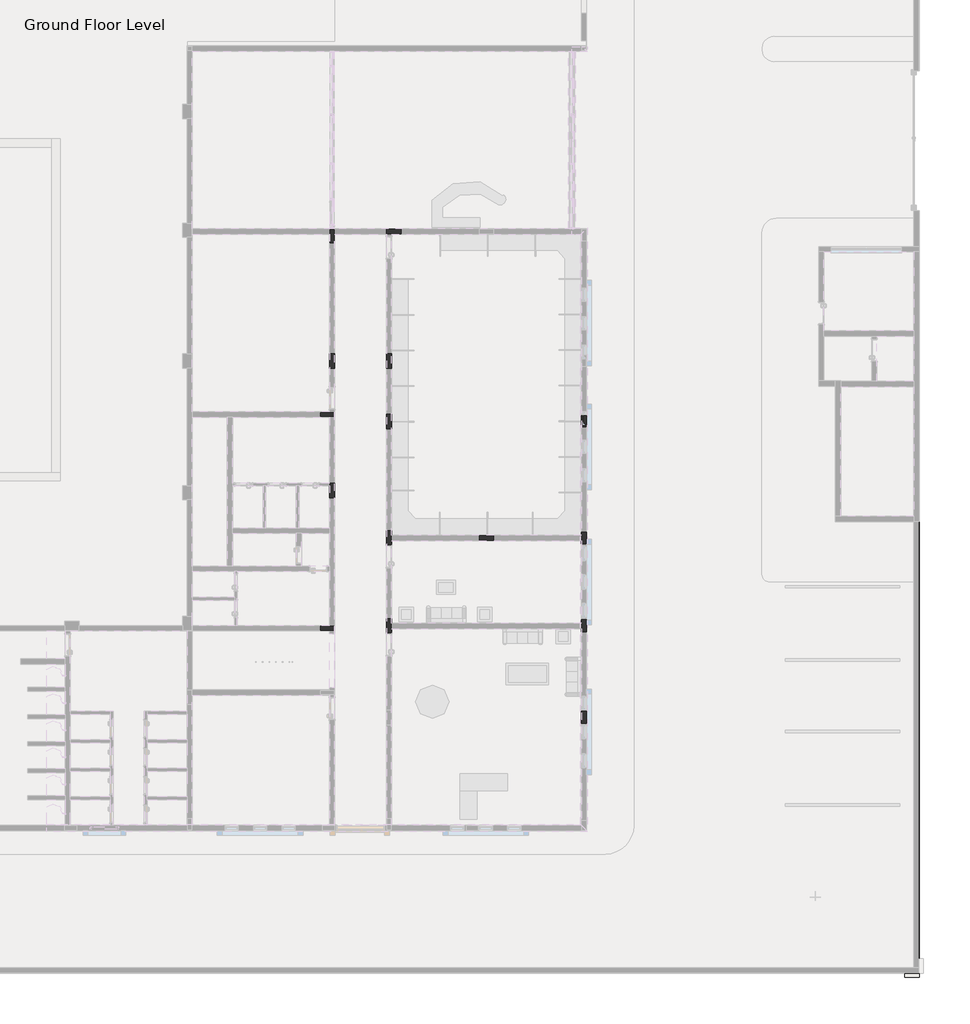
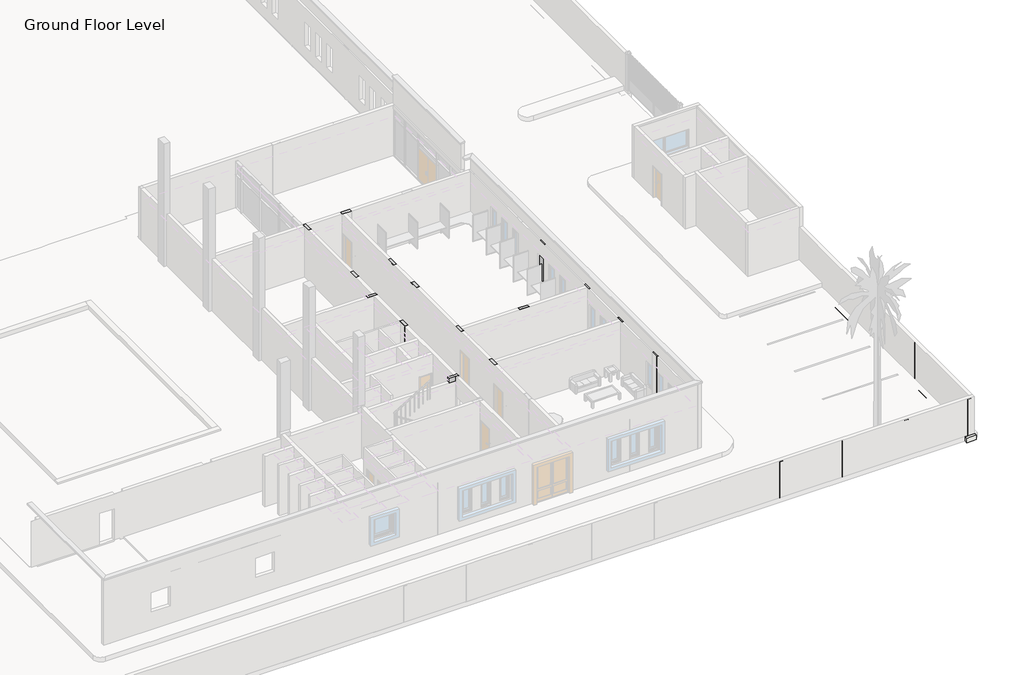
# One storey, part 16 of 23: 33 beams, 24 columns, 15 slabs, 1 footing.
"""IFC4 building model written with IfcOpenShell, lengths in millimetres."""

from ifc_helpers import new_model, si_unit, frame, origin, place, context, project, spatial, polyline, outline, extrude, faceted_brep, transform, mapped, element, save
from components import concrete_rectangular_c_9a02abf1

model = new_model("IFC4")

# Units and contexts
model_context = context("Model", 3, world=origin())
ifc_project = project(units=[si_unit("LENGTHUNIT", "METRE", prefix="MILLI")], contexts=[model_context])

# Site, building, storey
site = spatial("IfcSite", under=ifc_project)
building = spatial("IfcBuilding", under=site)
storey = spatial("IfcBuildingStorey", under=building, Name="Ground Floor Level", Elevation=900.0)

# Beams
placement = place(None, origin())
element("IfcBeam", 1, ObjectType="Concrete - Rectangular Beam : GB1", at=placement, inside=storey, context=model_context, shape_type="SweptSolid", body=[
    extrude(outline(polyline([(2556.7587914, -28654.7846466), (2356.7587914, -28654.7846466), (2356.7587914, -26954.7846466), (2556.7587914, -26954.7846466), (2556.7587914, -28654.7846466)])), frame((0.0, 0.0, 500.0), z_axis=(0.0, 0.0, 1.0), x_axis=(1.0, 0.0, 0.0)), (0.0, 0.0, 1.0), 100.0),
])
element("IfcBeam", 2, ObjectType="Concrete - Rectangular Beam : GB1", at=placement, inside=storey, context=model_context, shape_type="SweptSolid", body=[
    extrude(outline(polyline([(4052.7672395, -30254.7846466), (3852.7672395, -30254.7846466), (3852.7672395, -28854.7846466), (4052.7672395, -28854.7846466), (4052.7672395, -30254.7846466)])), frame((0.0, 0.0, 500.0), z_axis=(0.0, 0.0, 1.0), x_axis=(1.0, 0.0, 0.0)), (0.0, 0.0, 1.0), 100.0),
])
element("IfcBeam", 3, ObjectType="Concrete - Rectangular Beam : GB1", at=placement, inside=storey, context=model_context, shape_type="SweptSolid", body=[
    extrude(outline(polyline([(4052.7672395, -28654.7846466), (3852.7672395, -28654.7846466), (3852.7672395, -26954.7846466), (4052.7672395, -26954.7846466), (4052.7672395, -28654.7846466)])), frame((0.0, 0.0, 500.0), z_axis=(0.0, 0.0, 1.0), x_axis=(1.0, 0.0, 0.0)), (0.0, 0.0, 1.0), 100.0),
])
element("IfcBeam", 4, ObjectType="Concrete - Rectangular Beam : GB1", at=placement, inside=storey, context=model_context, shape_type="SweptSolid", body=[
    extrude(outline(polyline([(-547.2327605, -31704.7846466), (-547.2327605, -31504.7846466), (1152.7672395, -31504.7846466), (1152.7672395, -31704.7846466), (-547.2327605, -31704.7846466)])), frame((0.0, 0.0, 500.0), z_axis=(0.0, 0.0, 1.0), x_axis=(1.0, 0.0, 0.0)), (0.0, 0.0, 1.0), 100.0),
])
element("IfcBeam", 5, ObjectType="Concrete - Rectangular Beam : GB2", at=placement, inside=storey, context=model_context, shape_type="SweptSolid", body=[
    extrude(outline(polyline([(11752.7672395, -29154.7846464), (11952.7672395, -29154.7846464), (11952.7672395, -32654.7846466), (11752.7672395, -32654.7846466), (11752.7672395, -29154.7846464)])), frame((0.0, 0.0, 300.0), z_axis=(0.0, 0.0, 1.0), x_axis=(1.0, 0.0, 0.0)), (0.0, 0.0, 1.0), 300.0),
])
element("IfcBeam", 6, ObjectType="Concrete - Rectangular Beam : GB2", at=placement, inside=storey, context=model_context, shape_type="SweptSolid", body=[
    extrude(outline(polyline([(5252.7672395, -23954.7846466), (5452.7672395, -23954.7846466), (5452.7672395, -26754.7846466), (5252.7672395, -26754.7846466), (5252.7672395, -23954.7846466)])), frame((0.0, 0.0, 300.0), z_axis=(0.0, 0.0, 1.0), x_axis=(1.0, 0.0, 0.0)), (0.0, 0.0, 1.0), 300.0),
])
element("IfcBeam", 7, ObjectType="Concrete - Rectangular Beam : GB2", at=placement, inside=storey, context=model_context, shape_type="SweptSolid", body=[
    extrude(outline(polyline([(5252.7672395, -21904.7846466), (5452.7672395, -21904.7846466), (5452.7672395, -23754.7846466), (5252.7672395, -23754.7846466), (5252.7672395, -21904.7846466)])), frame((0.0, 0.0, 300.0), z_axis=(0.0, 0.0, 1.0), x_axis=(1.0, 0.0, 0.0)), (0.0, 0.0, 1.0), 300.0),
])
element("IfcBeam", 8, ObjectType="Concrete - Rectangular Beam : GB2", at=placement, inside=storey, context=model_context, shape_type="SweptSolid", body=[
    extrude(outline(polyline([(5452.7672395, -21904.7846466), (5452.7672395, -21704.7846466), (7652.7672395, -21704.7846466), (7652.7672395, -21904.7846466), (5452.7672395, -21904.7846466)])), frame((0.0, 0.0, 300.0), z_axis=(0.0, 0.0, 1.0), x_axis=(1.0, 0.0, 0.0)), (0.0, 0.0, 1.0), 300.0),
])
element("IfcBeam", 9, ObjectType="Concrete - Rectangular Beam : GB2", at=placement, inside=storey, context=model_context, shape_type="SweptSolid", body=[
    extrude(outline(polyline([(7852.7672395, -23854.2217867), (7652.7672395, -23854.2217867), (7652.7672395, -21904.7846466), (7852.7672395, -21904.7846466), (7852.7672395, -23854.2217867)])), frame((0.0, 0.0, 300.0), z_axis=(0.0, 0.0, 1.0), x_axis=(1.0, 0.0, 0.0)), (0.0, 0.0, 1.0), 300.0),
])
element("IfcBeam", 10, ObjectType="Concrete - Rectangular Beam : GB2", at=placement, inside=storey, context=model_context, shape_type="SweptSolid", body=[
    extrude(outline(polyline([(7652.7672395, -16054.7846466), (7652.7672395, -16254.7846466), (5452.7672395, -16254.7846466), (5452.7672395, -16054.7846466), (7652.7672395, -16054.7846466)])), frame((0.0, 0.0, 300.0), z_axis=(0.0, 0.0, 1.0), x_axis=(1.0, 0.0, 0.0)), (0.0, 0.0, 1.0), 300.0),
])
element("IfcBeam", 11, ObjectType="Concrete - Rectangular Beam : GB2", at=placement, inside=storey, context=model_context, shape_type="Brep", body=[
    faceted_brep([(1352.7672395, -32754.7846466, 300.0), (1352.7672395, -30454.7846466, 300.0), (1352.7672395, -30454.7846466, 600.0), (1352.7672395, -32754.7846466, 600.0), (1152.7672395, -30454.7846466, 300.0), (1152.7672395, -32754.7846466, 300.0), (1152.7672395, -32754.7846466, 600.0), (1152.7672395, -31704.7846466, 600.0), (1152.7672395, -31504.7846466, 600.0), (1152.7672395, -30454.7846466, 600.0)], [[[0, 1, 2, 3]], [[4, 1, 0, 5]], [[4, 5, 6, 7, 8, 9]], [[1, 4, 9, 2]], [[5, 0, 3, 6]], [[3, 2, 9, 8, 7, 6]]]),
])
element("IfcBeam", 12, ObjectType="Concrete - Rectangular Beam : GB3", at=placement, inside=storey, context=model_context, shape_type="SweptSolid", body=[
    extrude(outline(polyline([(16052.7672395, -32504.7846466), (15852.7672395, -32504.7846466), (15852.7672395, -29304.7846466), (16052.7672395, -29304.7846466), (16052.7672395, -32504.7846466)])), frame((0.0, 0.0, 300.0), z_axis=(0.0, 0.0, 1.0), x_axis=(1.0, 0.0, 0.0)), (0.0, 0.0, 1.0), 300.0),
])
element("IfcBeam", 13, ObjectType="Concrete - Rectangular Beam : GB3", at=placement, inside=storey, context=model_context, shape_type="SweptSolid", body=[
    extrude(outline(polyline([(16052.7672395, -36354.7846466), (15852.7672395, -36354.7846466), (15852.7672395, -33004.7846466), (16052.7672395, -33004.7846466), (16052.7672395, -36354.7846466)])), frame((0.0, 0.0, 300.0), z_axis=(0.0, 0.0, 1.0), x_axis=(1.0, 0.0, 0.0)), (0.0, 0.0, 1.0), 300.0),
])
element("IfcBeam", 14, ObjectType="Concrete - Rectangular Beam : GB3", at=placement, inside=storey, context=model_context, shape_type="SweptSolid", body=[
    extrude(outline(polyline([(15852.7672395, -36854.7846466), (16052.7672395, -36854.7846466), (16052.7672395, -40954.7846466), (15852.7672395, -40954.7846466), (15852.7672395, -36854.7846466)])), frame((0.0, 0.0, 300.0), z_axis=(0.0, 0.0, 1.0), x_axis=(1.0, 0.0, 0.0)), (0.0, 0.0, 1.0), 300.0),
])
element("IfcBeam", 15, ObjectType="Concrete - Rectangular Beam : GB3", at=placement, inside=storey, context=model_context, shape_type="SweptSolid", body=[
    extrude(outline(polyline([(11552.7672395, -32854.7846466), (7852.7672395, -32854.7846466), (7852.7672395, -32654.7846466), (11552.7672395, -32654.7846466), (11552.7672395, -32854.7846466)])), frame((0.0, 0.0, 300.0), z_axis=(0.0, 0.0, 1.0), x_axis=(1.0, 0.0, 0.0)), (0.0, 0.0, 1.0), 300.0),
])
element("IfcBeam", 16, ObjectType="Concrete - Rectangular Beam : GB3", at=placement, inside=storey, context=model_context, shape_type="SweptSolid", body=[
    extrude(outline(polyline([(12152.7672395, -32654.7846466), (15852.7672395, -32654.7846466), (15852.7672395, -32854.7846466), (12152.7672395, -32854.7846466), (12152.7672395, -32654.7846466)])), frame((0.0, 0.0, 300.0), z_axis=(0.0, 0.0, 1.0), x_axis=(1.0, 0.0, 0.0)), (0.0, 0.0, 1.0), 300.0),
])
element("IfcBeam", 17, ObjectType="Concrete - Rectangular Beam : GB3", at=placement, inside=storey, context=model_context, shape_type="SweptSolid", body=[
    extrude(outline(polyline([(7652.7672395, -29354.7846466), (7852.7672395, -29354.7846466), (7852.7672395, -32454.7846466), (7652.7672395, -32454.7846466), (7652.7672395, -29354.7846466)])), frame((0.0, 0.0, 300.0), z_axis=(0.0, 0.0, 1.0), x_axis=(1.0, 0.0, 0.0)), (0.0, 0.0, 1.0), 300.0),
])
element("IfcBeam", 18, ObjectType="Concrete - Rectangular Beam : GB3", at=placement, inside=storey, context=model_context, shape_type="SweptSolid", body=[
    extrude(outline(polyline([(11552.7672395, -29154.7846466), (7852.7672395, -29154.7846466), (7852.7672395, -28954.7846466), (11552.7672395, -28954.7846466), (11552.7672395, -29154.7846466)])), frame((0.0, 0.0, 300.0), z_axis=(0.0, 0.0, 1.0), x_axis=(1.0, 0.0, 0.0)), (0.0, 0.0, 1.0), 300.0),
])
element("IfcBeam", 19, ObjectType="Concrete - Rectangular Beam : GB3", at=placement, inside=storey, context=model_context, shape_type="SweptSolid", body=[
    extrude(outline(polyline([(12152.7672395, -29154.7846466), (12152.7672395, -28954.7846466), (15852.7672395, -28954.7846466), (15852.7672395, -29154.7846466), (12152.7672395, -29154.7846466)])), frame((0.0, 0.0, 300.0), z_axis=(0.0, 0.0, 1.0), x_axis=(1.0, 0.0, 0.0)), (0.0, 0.0, 1.0), 300.0),
])
element("IfcBeam", 20, ObjectType="Concrete - Rectangular Beam : GB3", at=placement, inside=storey, context=model_context, shape_type="SweptSolid", body=[
    extrude(outline(polyline([(11722.4949783, -28954.7846466), (15852.7672395, -24007.8583672), (15852.7672395, -24319.9187984), (11983.0395003, -28954.7846466), (11722.4949783, -28954.7846466)])), frame((0.0, 0.0, 300.0), z_axis=(0.0, 0.0, 1.0), x_axis=(1.0, 0.0, 0.0)), (0.0, 0.0, 1.0), 300.0),
])
element("IfcBeam", 21, ObjectType="Concrete - Rectangular Beam : GB3", at=placement, inside=storey, context=model_context, shape_type="SweptSolid", body=[
    extrude(outline(polyline([(11110.5667198, -41154.7846466), (15852.7672395, -36464.1297847), (15852.7672395, -36745.4395085), (11394.9677592, -41154.7846466), (11110.5667198, -41154.7846466)])), frame((0.0, 0.0, 300.0), z_axis=(0.0, 0.0, 1.0), x_axis=(1.0, 0.0, 0.0)), (0.0, 0.0, 1.0), 300.0),
])
element("IfcBeam", 22, ObjectType="Concrete - Rectangular Beam : GB3", at=placement, inside=storey, context=model_context, shape_type="SweptSolid", body=[
    extrude(outline(polyline([(5252.7672395, -21704.7846466), (5252.7672395, -21904.7846466), (-547.2327605, -21904.7846466), (-547.2327605, -21704.7846466), (5252.7672395, -21704.7846466)])), frame((0.0, 0.0, 300.0), z_axis=(0.0, 0.0, 1.0), x_axis=(1.0, 0.0, 0.0)), (0.0, 0.0, 1.0), 300.0),
])
element("IfcBeam", 23, ObjectType="Concrete - Rectangular Beam : GB3", at=placement, inside=storey, context=model_context, shape_type="Brep", body=[
    faceted_brep([(1156.7587914, -26954.7846466, 300.0), (5252.7672395, -26954.7846466, 300.0), (5252.7672395, -26954.7846466, 600.0), (4052.7672395, -26954.7846466, 600.0), (3852.7672395, -26954.7846466, 600.0), (2556.7587914, -26954.7846466, 600.0), (2356.7587914, -26954.7846466, 600.0), (1156.7587914, -26954.7846466, 600.0), (1156.7587914, -26754.7846466, 300.0), (5252.7672395, -26754.7846466, 300.0), (1156.7587914, -26754.7846466, 600.0), (5252.7672395, -26754.7846466, 600.0)], [[[0, 1, 2, 3, 4, 5, 6, 7]], [[0, 8, 9, 1]], [[9, 8, 10, 11]], [[8, 0, 7, 10]], [[1, 9, 11, 2]], [[7, 6, 5, 4, 3, 2, 11, 10]]]),
])
element("IfcBeam", 24, ObjectType="Concrete - Rectangular Beam : GB4", at=placement, inside=storey, context=model_context, shape_type="SweptSolid", body=[
    extrude(outline(polyline([(16052.7672395, -28804.7846466), (15852.7672395, -28804.7846466), (15852.7672395, -24404.2217867), (16052.7672395, -24404.2217867), (16052.7672395, -28804.7846466)])), frame((0.0, 0.0, 300.0), z_axis=(0.0, 0.0, 1.0), x_axis=(1.0, 0.0, 0.0)), (0.0, 0.0, 1.0), 300.0),
])
element("IfcBeam", 25, ObjectType="Concrete - Rectangular Beam : GB4", at=placement, inside=storey, context=model_context, shape_type="SweptSolid", body=[
    extrude(outline(polyline([(7852.7672395, -16254.7846466), (7852.7672395, -21304.7846466), (7652.7672395, -21304.7846466), (7652.7672395, -16254.7846466), (7852.7672395, -16254.7846466)])), frame((0.0, 0.0, 300.0), z_axis=(0.0, 0.0, 1.0), x_axis=(1.0, 0.0, 0.0)), (0.0, 0.0, 1.0), 300.0),
])
element("IfcBeam", 26, ObjectType="Concrete - Rectangular Beam : GB4", at=placement, inside=storey, context=model_context, shape_type="SweptSolid", body=[
    extrude(outline(polyline([(5452.7672395, -21304.7846466), (5252.7672395, -21304.7846466), (5252.7672395, -16654.7846466), (5452.7672395, -16654.7846466), (5452.7672395, -21304.7846466)])), frame((0.0, 0.0, 300.0), z_axis=(0.0, 0.0, 1.0), x_axis=(1.0, 0.0, 0.0)), (0.0, 0.0, 1.0), 300.0),
])
element("IfcBeam", 27, ObjectType="Concrete - Rectangular Beam : GB4", at=placement, inside=storey, context=model_context, shape_type="SweptSolid", body=[
    extrude(outline(polyline([(7652.7672395, -24454.2217867), (7852.7672395, -24454.2217867), (7852.7672395, -28754.7846466), (7652.7672395, -28754.7846466), (7652.7672395, -24454.2217867)])), frame((0.0, 0.0, 300.0), z_axis=(0.0, 0.0, 1.0), x_axis=(1.0, 0.0, 0.0)), (0.0, 0.0, 1.0), 300.0),
])
element("IfcBeam", 28, ObjectType="Concrete - Rectangular Beam : GB4", at=placement, inside=storey, context=model_context, shape_type="SweptSolid", body=[
    extrude(outline(polyline([(5252.7672395, -16054.7846466), (5252.7672395, -16254.7846466), (-547.2327605, -16254.7846466), (-547.2327605, -16054.7846466), (5252.7672395, -16054.7846466)])), frame((0.0, 0.0, 300.0), z_axis=(0.0, 0.0, 1.0), x_axis=(1.0, 0.0, 0.0)), (0.0, 0.0, 1.0), 300.0),
])
element("IfcBeam", 29, ObjectType="Concrete - Rectangular Beam : GB4", at=placement, inside=storey, context=model_context, shape_type="Brep", body=[
    faceted_brep([(1156.7587914, -28854.7846466, 300.0), (5252.7672395, -28854.7846466, 300.0), (5252.7672395, -28854.7846466, 600.0), (4052.7672395, -28854.7846466, 600.0), (3852.7672395, -28854.7846466, 600.0), (1156.7587914, -28854.7846466, 600.0), (5252.7672395, -28654.7846466, 300.0), (1156.7587914, -28654.7846466, 300.0), (1156.7587914, -28654.7846466, 600.0), (2356.7587914, -28654.7846466, 600.0), (2556.7587914, -28654.7846466, 600.0), (3852.7672395, -28654.7846466, 600.0), (4052.7672395, -28654.7846466, 600.0), (5252.7672395, -28654.7846466, 600.0)], [[[0, 1, 2, 3, 4, 5]], [[6, 1, 0, 7]], [[6, 7, 8, 9, 10, 11, 12, 13]], [[1, 6, 13, 2]], [[7, 0, 5, 8]], [[5, 4, 3, 2, 13, 12, 11, 10, 9, 8]]]),
])
element("IfcBeam", 30, ObjectType="Concrete - Rectangular Beam : GB5", at=placement, inside=storey, context=model_context, shape_type="Brep", body=[
    faceted_brep([(5452.7672395, -32754.7846466, 300.0), (5452.7672395, -27354.7846466, 300.0), (5452.7672395, -27354.7846466, 600.0), (5452.7672395, -32754.7846466, 600.0), (5252.7672395, -27354.7846466, 300.0), (5252.7672395, -32754.7846466, 300.0), (5252.7672395, -30454.7846466, 300.0), (5252.7672395, -30254.7846466, 300.0), (5252.7672395, -28854.7846466, 300.0), (5252.7672395, -28654.7846466, 300.0), (5252.7672395, -32754.7846466, 600.0), (5252.7672395, -30454.7846466, 600.0), (5252.7672395, -30254.7846466, 600.0), (5252.7672395, -28854.7846466, 600.0), (5252.7672395, -28654.7846466, 600.0), (5252.7672395, -27354.7846466, 600.0)], [[[0, 1, 2, 3]], [[4, 1, 0, 5, 6, 7, 8, 9]], [[4, 9, 8, 7, 6, 5, 10, 11, 12, 13, 14, 15]], [[1, 4, 15, 2]], [[5, 0, 3, 10]], [[3, 2, 15, 14, 13, 12, 11, 10]]]),
])
element("IfcBeam", 31, ObjectType="Concrete - Rectangular Beam : GB5", at=placement, inside=storey, context=model_context, shape_type="Brep", body=[
    faceted_brep([(-547.2327605, -23954.7846466, 300.0), (956.7587914, -23954.7846466, 300.0), (1156.7587914, -23954.7846466, 300.0), (4852.7672395, -23954.7846466, 300.0), (4852.7672395, -23954.7846466, 600.0), (1156.7587914, -23954.7846466, 600.0), (956.7587914, -23954.7846466, 600.0), (-547.2327605, -23954.7846466, 600.0), (-547.2327605, -23754.7846466, 300.0), (4852.7672395, -23754.7846466, 300.0), (-547.2327605, -23754.7846466, 600.0), (4852.7672395, -23754.7846466, 600.0)], [[[0, 1, 2, 3, 4, 5, 6, 7]], [[0, 8, 9, 3, 2, 1]], [[9, 8, 10, 11]], [[8, 0, 7, 10]], [[3, 9, 11, 4]], [[7, 6, 5, 4, 11, 10]]]),
])
element("IfcBeam", 32, ObjectType="Concrete - Rectangular Beam : GB5", at=placement, inside=storey, context=model_context, shape_type="Brep", body=[
    faceted_brep([(1156.7587914, -30254.7846466, 300.0), (1156.7587914, -28854.7846466, 300.0), (1156.7587914, -28654.7846466, 300.0), (1156.7587914, -26954.7846466, 300.0), (1156.7587914, -26754.7846466, 300.0), (1156.7587914, -23954.7846466, 300.0), (1156.7587914, -23954.7846466, 600.0), (1156.7587914, -26754.7846466, 600.0), (1156.7587914, -26954.7846466, 600.0), (1156.7587914, -28654.7846466, 600.0), (1156.7587914, -28854.7846466, 600.0), (1156.7587914, -30254.7846466, 600.0), (956.7587914, -23954.7846466, 300.0), (956.7587914, -30254.7846466, 300.0), (956.7587914, -30254.7846466, 600.0), (956.7587914, -23954.7846466, 600.0)], [[[0, 1, 2, 3, 4, 5, 6, 7, 8, 9, 10, 11]], [[12, 5, 4, 3, 2, 1, 0, 13]], [[12, 13, 14, 15]], [[5, 12, 15, 6]], [[13, 0, 11, 14]], [[11, 10, 9, 8, 7, 6, 15, 14]]]),
])
element("IfcBeam", 33, ObjectType="Concrete - Rectangular Beam : GB5", at=placement, inside=storey, context=model_context, shape_type="Brep", body=[
    faceted_brep([(-547.2327605, -30454.7846466, 300.0), (1152.7672395, -30454.7846466, 300.0), (1352.7672395, -30454.7846466, 300.0), (5252.7672395, -30454.7846466, 300.0), (5252.7672395, -30454.7846466, 600.0), (1352.7672395, -30454.7846466, 600.0), (1152.7672395, -30454.7846466, 600.0), (-547.2327605, -30454.7846466, 600.0), (5252.7672395, -30254.7846466, 300.0), (-547.2327605, -30254.7846466, 300.0), (956.7587914, -30254.7846466, 300.0), (1156.7587914, -30254.7846466, 300.0), (-547.2327605, -30254.7846466, 600.0), (956.7587914, -30254.7846466, 600.0), (1156.7587914, -30254.7846466, 600.0), (3852.7672395, -30254.7846466, 600.0), (4052.7672395, -30254.7846466, 600.0), (5252.7672395, -30254.7846466, 600.0)], [[[0, 1, 2, 3, 4, 5, 6, 7]], [[8, 3, 2, 1, 0, 9, 10, 11]], [[8, 11, 10, 9, 12, 13, 14, 15, 16, 17]], [[3, 8, 17, 4]], [[9, 0, 7, 12]], [[7, 6, 5, 4, 17, 16, 15, 14, 13, 12]]]),
])

# Columns
concrete_rectangular_c_shape = concrete_rectangular_c_9a02abf1(model_context)
element("IfcColumn", 34, ObjectType="Concrete Rectangular : C", at=placement, inside=storey, context=model_context, shape_type="MappedRepresentation", body=[
    mapped(concrete_rectangular_c_shape, transform((29943.9253387, -33044.7846466, 0.0), x_axis=(-1.0, 0.0, 0.0), y_axis=(0.0, -1.0, 0.0), z_axis=(0.0, 0.0, 1.0))),
])
element("IfcColumn", 35, ObjectType="Concrete Rectangular : C", at=placement, inside=storey, context=model_context, shape_type="MappedRepresentation", body=[
    mapped(concrete_rectangular_c_shape, transform((29943.9253387, -37044.7846466, 0.0), x_axis=(-1.0, 0.0, 0.0), y_axis=(0.0, -1.0, 0.0), z_axis=(0.0, 0.0, 1.0))),
])
element("IfcColumn", 36, ObjectType="Concrete Rectangular : C", at=placement, inside=storey, context=model_context, shape_type="MappedRepresentation", body=[
    mapped(concrete_rectangular_c_shape, transform((29943.9253387, -41044.7846466, 0.0), x_axis=(-1.0, 0.0, 0.0), y_axis=(0.0, -1.0, 0.0), z_axis=(0.0, 0.0, 1.0))),
])
element("IfcColumn", 37, ObjectType="Concrete Rectangular : C", at=placement, inside=storey, context=model_context, shape_type="MappedRepresentation", body=[
    mapped(concrete_rectangular_c_shape, transform((29943.9253387, -45044.7846466, 0.0), x_axis=(-1.0, 0.0, 0.0), y_axis=(0.0, -1.0, 0.0), z_axis=(0.0, 0.0, 1.0))),
])
element("IfcColumn", 38, ObjectType="Concrete Rectangular : C", at=placement, inside=storey, context=model_context, shape_type="MappedRepresentation", body=[
    mapped(concrete_rectangular_c_shape, transform((29716.0532888, -47254.7846466, 0.0), x_axis=(-1.0, 0.0, 0.0), y_axis=(0.0, -1.0, 0.0), z_axis=(0.0, 0.0, 1.0))),
])
element("IfcColumn", 39, ObjectType="Concrete Rectangular : C", at=placement, inside=storey, context=model_context, shape_type="MappedRepresentation", body=[
    mapped(concrete_rectangular_c_shape, transform((25716.0532888, -47254.7846466, 0.0), x_axis=(-1.0, 0.0, 0.0), y_axis=(0.0, -1.0, 0.0), z_axis=(0.0, 0.0, 1.0))),
])
element("IfcColumn", 40, ObjectType="Concrete Rectangular : C", at=placement, inside=storey, context=model_context, shape_type="MappedRepresentation", body=[
    mapped(concrete_rectangular_c_shape, transform((21716.0532888, -47254.7846466, 0.0), x_axis=(-1.0, 0.0, 0.0), y_axis=(0.0, -1.0, 0.0), z_axis=(0.0, 0.0, 1.0))),
])
element("IfcColumn", 41, ObjectType="Concrete Rectangular : C", at=placement, inside=storey, context=model_context, shape_type="MappedRepresentation", body=[
    mapped(concrete_rectangular_c_shape, transform((17716.0532888, -47254.7846466, 0.0), x_axis=(-1.0, 0.0, 0.0), y_axis=(0.0, -1.0, 0.0), z_axis=(0.0, 0.0, 1.0))),
])
element("IfcColumn", 42, ObjectType="Concrete Rectangular : C2", at=placement, inside=storey, context=model_context, shape_type="Brep", body=[
    faceted_brep([(16052.7672395, -36354.7846466, -300.0), (16052.7672395, -36854.7846466, -300.0), (15852.7672395, -36854.7846466, -300.0), (15852.7672395, -36354.7846466, -300.0), (16052.7672395, -36354.7846466, 4400.0), (16052.7672395, -36854.7846466, 4400.0), (16052.7672395, -36854.7846466, 900.0), (16052.7672395, -36354.7846466, 900.0), (15852.7672395, -36854.7846466, 4400.0), (15852.7672395, -36854.7846466, 1000.0), (15852.7672395, -36354.7846466, 4400.0), (15852.7672395, -36354.7846466, 1000.0)], [[[0, 1, 2, 3]], [[4, 5, 6, 1, 0, 7]], [[5, 8, 9, 2, 1, 6]], [[8, 10, 11, 3, 2, 9]], [[10, 4, 7, 0, 3, 11]], [[4, 10, 8, 5]]]),
])
element("IfcColumn", 43, ObjectType="Concrete Rectangular : C2", at=placement, inside=storey, context=model_context, shape_type="Brep", body=[
    faceted_brep([(16052.7672395, -32504.7846466, -300.0), (16052.7672395, -33004.7846466, -300.0), (15852.7672395, -33004.7846466, -300.0), (15852.7672395, -32504.7846466, -300.0), (16052.7672395, -32504.7846466, 4400.0), (16052.7672395, -33004.7846466, 4400.0), (16052.7672395, -33004.7846466, 900.0), (16052.7672395, -32504.7846466, 900.0), (15852.7672395, -33004.7846466, 4400.0), (15852.7672395, -33004.7846466, 1000.0), (15852.7672395, -32504.7846466, 4400.0), (15852.7672395, -32504.7846466, 1000.0)], [[[0, 1, 2, 3]], [[4, 5, 6, 1, 0, 7]], [[5, 8, 9, 2, 1, 6]], [[8, 10, 11, 3, 2, 9]], [[10, 4, 7, 0, 3, 11]], [[4, 10, 8, 5]]]),
])
element("IfcColumn", 44, ObjectType="Concrete Rectangular : C2", at=placement, inside=storey, context=model_context, shape_type="Brep", body=[
    faceted_brep([(16052.7672395, -28804.7846466, -300.0), (16052.7672395, -29304.7846466, -300.0), (15852.7672395, -29304.7846466, -300.0), (15852.7672395, -28804.7846466, -300.0), (16052.7672395, -28804.7846466, 4400.0), (16052.7672395, -29304.7846466, 4400.0), (16052.7672395, -29304.7846466, 900.0), (16052.7672395, -28804.7846466, 900.0), (15852.7672395, -29304.7846466, 4400.0), (15852.7672395, -29304.7846466, 1000.0), (15852.7672395, -28804.7846466, 4400.0), (15852.7672395, -28804.7846466, 1000.0)], [[[0, 1, 2, 3]], [[4, 5, 6, 1, 0, 7]], [[5, 8, 9, 2, 1, 6]], [[8, 10, 11, 3, 2, 9]], [[10, 4, 7, 0, 3, 11]], [[4, 10, 8, 5]]]),
])
element("IfcColumn", 45, ObjectType="Concrete Rectangular : C2", at=placement, inside=storey, context=model_context, shape_type="Brep", body=[
    faceted_brep([(16052.7672395, -23904.2217867, -300.0), (16052.7672395, -24404.2217867, -300.0), (15852.7672395, -24404.2217867, -300.0), (15852.7672395, -23904.2217867, -300.0), (16052.7672395, -23904.2217867, 4400.0), (16052.7672395, -24404.2217867, 4400.0), (16052.7672395, -24404.2217867, 900.0), (16052.7672395, -23904.2217867, 900.0), (16052.7672395, -23904.2217867, 1800.0), (16052.7672395, -23904.2217867, 3400.0), (15852.7672395, -24404.2217867, 4400.0), (15852.7672395, -24404.2217867, 1000.0), (15852.7672395, -23904.2217867, 4400.0), (15852.7672395, -23904.2217867, 3400.0), (15852.7672395, -23904.2217867, 1800.0), (15852.7672395, -23904.2217867, 1000.0)], [[[0, 1, 2, 3]], [[4, 5, 6, 1, 0, 7, 8, 9]], [[5, 10, 11, 2, 1, 6]], [[10, 12, 13, 14, 15, 3, 2, 11]], [[12, 4, 9, 8, 7, 0, 3, 15, 14, 13]], [[4, 12, 10, 5]]]),
])
element("IfcColumn", 46, ObjectType="Concrete Rectangular : C3", at=placement, inside=storey, context=model_context, shape_type="Brep", body=[
    faceted_brep([(5452.7672395, -21304.7846466, -300.0), (5452.7672395, -21904.7846466, -300.0), (5252.7672395, -21904.7846466, -300.0), (5252.7672395, -21304.7846466, -300.0), (5452.7672395, -21904.7846466, 600.0), (5452.7672395, -21704.7846466, 600.0), (5452.7672395, -21304.7846466, 600.0), (5252.7672395, -21304.7846466, 600.0), (5252.7672395, -21704.7846466, 600.0), (5252.7672395, -21904.7846466, 600.0), (5452.7672395, -21304.7846466, 300.0), (5452.7672395, -21904.7846466, 300.0), (5252.7672395, -21904.7846466, 300.0), (5252.7672395, -21304.7846466, 300.0)], [[[0, 1, 2, 3]], [[4, 5, 6, 7, 8, 9]], [[1, 0, 10, 6, 5, 4, 11]], [[2, 1, 11, 4, 9, 12]], [[3, 2, 12, 9, 8, 7, 13]], [[0, 3, 13, 7, 6, 10]]]),
    faceted_brep([(5452.7672395, -21304.7846466, 4400.0), (5452.7672395, -21904.7846466, 4400.0), (5452.7672395, -21904.7846466, 1000.0), (5452.7672395, -21904.7846466, 900.0), (5452.7672395, -21304.7846466, 900.0), (5452.7672395, -21304.7846466, 1000.0), (5252.7672395, -21904.7846466, 4400.0), (5252.7672395, -21904.7846466, 1000.0), (5252.7672395, -21904.7846466, 900.0), (5252.7672395, -21304.7846466, 4400.0), (5252.7672395, -21304.7846466, 1000.0), (5252.7672395, -21304.7846466, 900.0)], [[[0, 1, 2, 3, 4, 5]], [[1, 6, 7, 8, 3, 2]], [[6, 9, 10, 11, 8, 7]], [[9, 0, 5, 4, 11, 10]], [[1, 0, 9, 6]], [[4, 3, 8, 11]]]),
])
element("IfcColumn", 47, ObjectType="Concrete Rectangular : C3", at=placement, inside=storey, context=model_context, shape_type="Brep", body=[
    faceted_brep([(7852.7672395, -21304.7846466, -300.0), (7852.7672395, -21904.7846466, -300.0), (7652.7672395, -21904.7846466, -300.0), (7652.7672395, -21304.7846466, -300.0), (7852.7672395, -21904.7846466, 600.0), (7852.7672395, -21304.7846466, 600.0), (7652.7672395, -21304.7846466, 600.0), (7652.7672395, -21704.7846466, 600.0), (7652.7672395, -21904.7846466, 600.0), (7852.7672395, -21304.7846466, 300.0), (7852.7672395, -21904.7846466, 300.0), (7652.7672395, -21904.7846466, 300.0), (7652.7672395, -21304.7846466, 300.0)], [[[0, 1, 2, 3]], [[4, 5, 6, 7, 8]], [[1, 0, 9, 5, 4, 10]], [[2, 1, 10, 4, 8, 11]], [[3, 2, 11, 8, 7, 6, 12]], [[0, 3, 12, 6, 5, 9]]]),
    faceted_brep([(7852.7672395, -21304.7846466, 4400.0), (7852.7672395, -21904.7846466, 4400.0), (7852.7672395, -21904.7846466, 1000.0), (7852.7672395, -21904.7846466, 900.0), (7852.7672395, -21304.7846466, 900.0), (7852.7672395, -21304.7846466, 1000.0), (7652.7672395, -21904.7846466, 4400.0), (7652.7672395, -21904.7846466, 1000.0), (7652.7672395, -21904.7846466, 900.0), (7652.7672395, -21304.7846466, 4400.0), (7652.7672395, -21304.7846466, 1000.0), (7652.7672395, -21304.7846466, 900.0)], [[[0, 1, 2, 3, 4, 5]], [[1, 6, 7, 8, 3, 2]], [[6, 9, 10, 11, 8, 7]], [[9, 0, 5, 4, 11, 10]], [[1, 0, 9, 6]], [[4, 3, 8, 11]]]),
])
element("IfcColumn", 48, ObjectType="Concrete Rectangular : C3", at=placement, inside=storey, context=model_context, shape_type="Brep", body=[
    faceted_brep([(4852.7672395, -23754.7846466, -300.0), (5452.7672395, -23754.7846466, -300.0), (5452.7672395, -23954.7846466, -300.0), (4852.7672395, -23954.7846466, -300.0), (4852.7672395, -23754.7846466, 4400.0), (5242.7672394, -23754.7846466, 4400.0), (5452.7672395, -23754.7846466, 4400.0), (5452.7672395, -23754.7846466, 1000.0), (5452.7672395, -23754.7846466, 900.0), (4852.7672395, -23754.7846466, 900.0), (4852.7672395, -23754.7846466, 1000.0), (5452.7672395, -23954.7846466, 4400.0), (5452.7672395, -23954.7846466, 1000.0), (5452.7672395, -23954.7846466, 900.0), (5242.7672394, -23954.7846466, 4400.0), (4852.7672395, -23954.7846466, 4400.0), (4852.7672395, -23954.7846466, 1000.0), (4852.7672395, -23954.7846466, 900.0)], [[[0, 1, 2, 3]], [[4, 5, 6, 7, 8, 1, 0, 9, 10]], [[6, 11, 12, 13, 2, 1, 8, 7]], [[11, 14, 15, 16, 17, 3, 2, 13, 12]], [[15, 4, 10, 9, 0, 3, 17, 16]], [[4, 15, 14, 11, 6, 5]]]),
])
element("IfcColumn", 49, ObjectType="Concrete Rectangular : C3", at=placement, inside=storey, context=model_context, shape_type="Brep", body=[
    faceted_brep([(7652.7672395, -24454.2217867, -300.0), (7652.7672395, -23854.2217867, -300.0), (7852.7672395, -23854.2217867, -300.0), (7852.7672395, -24454.2217867, -300.0), (7652.7672395, -23854.2217867, 600.0), (7652.7672395, -24454.2217867, 600.0), (7852.7672395, -24454.2217867, 600.0), (7852.7672395, -23854.2217867, 600.0), (7652.7672395, -24454.2217867, 300.0), (7652.7672395, -23854.2217867, 300.0), (7852.7672395, -23854.2217867, 300.0), (7852.7672395, -24454.2217867, 300.0)], [[[0, 1, 2, 3]], [[4, 5, 6, 7]], [[1, 0, 8, 5, 4, 9]], [[2, 1, 9, 4, 7, 10]], [[3, 2, 10, 7, 6, 11]], [[0, 3, 11, 6, 5, 8]]]),
    faceted_brep([(7652.7672395, -24454.2217867, 4400.0), (7652.7672395, -23854.2217867, 4400.0), (7652.7672395, -23854.2217867, 1000.0), (7652.7672395, -23854.2217867, 900.0), (7652.7672395, -24454.2217867, 900.0), (7652.7672395, -24454.2217867, 1000.0), (7852.7672395, -23854.2217867, 4400.0), (7852.7672395, -23854.2217867, 1000.0), (7852.7672395, -23854.2217867, 900.0), (7852.7672395, -24454.2217867, 4400.0), (7852.7672395, -24454.2217867, 1000.0), (7852.7672395, -24454.2217867, 900.0)], [[[0, 1, 2, 3, 4, 5]], [[1, 6, 7, 8, 3, 2]], [[6, 9, 10, 11, 8, 7]], [[9, 0, 5, 4, 11, 10]], [[1, 0, 9, 6]], [[4, 3, 8, 11]]]),
])
element("IfcColumn", 50, ObjectType="Concrete Rectangular : C3", at=placement, inside=storey, context=model_context, shape_type="Brep", body=[
    faceted_brep([(5452.7672395, -26754.7846466, -300.0), (5452.7672395, -27354.7846466, -300.0), (5252.7672395, -27354.7846466, -300.0), (5252.7672395, -26754.7846466, -300.0), (5452.7672395, -26754.7846466, 4400.0), (5452.7672395, -27354.7846466, 4400.0), (5452.7672395, -27354.7846466, 1000.0), (5452.7672395, -27354.7846466, 900.0), (5452.7672395, -26754.7846466, 900.0), (5452.7672395, -26754.7846466, 1000.0), (5252.7672395, -27354.7846466, 4400.0), (5252.7672395, -27354.7846466, 1000.0), (5252.7672395, -27354.7846466, 900.0), (5252.7672395, -26754.7846466, 4400.0), (5252.7672395, -26754.7846466, 1000.0), (5252.7672395, -26754.7846466, 900.0)], [[[0, 1, 2, 3]], [[4, 5, 6, 7, 1, 0, 8, 9]], [[5, 10, 11, 12, 2, 1, 7, 6]], [[10, 13, 14, 15, 3, 2, 12, 11]], [[13, 4, 9, 8, 0, 3, 15, 14]], [[4, 13, 10, 5]]]),
])
element("IfcColumn", 51, ObjectType="Concrete Rectangular : C3", at=placement, inside=storey, context=model_context, shape_type="Brep", body=[
    faceted_brep([(7852.7672395, -28754.7846466, -300.0), (7852.7672395, -29354.7846466, -300.0), (7652.7672395, -29354.7846466, -300.0), (7652.7672395, -28754.7846466, -300.0), (7852.7672395, -28754.7846466, 4400.0), (7852.7672395, -29354.7846466, 4400.0), (7852.7672395, -29354.7846466, 1000.0), (7852.7672395, -29354.7846466, 900.0), (7852.7672395, -28754.7846466, 900.0), (7852.7672395, -28754.7846466, 1000.0), (7652.7672395, -29354.7846466, 4400.0), (7652.7672395, -29354.7846466, 1000.0), (7652.7672395, -29354.7846466, 900.0), (7652.7672395, -28754.7846466, 4400.0), (7652.7672395, -28754.7846466, 1000.0), (7652.7672395, -28754.7846466, 900.0)], [[[0, 1, 2, 3]], [[4, 5, 6, 7, 1, 0, 8, 9]], [[5, 10, 11, 12, 2, 1, 7, 6]], [[10, 13, 14, 15, 3, 2, 12, 11]], [[13, 4, 9, 8, 0, 3, 15, 14]], [[4, 13, 10, 5]]]),
])
element("IfcColumn", 52, ObjectType="Concrete Rectangular : C3", at=placement, inside=storey, context=model_context, shape_type="Brep", body=[
    faceted_brep([(11552.7672395, -28954.7846464, -300.0), (12152.7672395, -28954.7846464, -300.0), (12152.7672395, -29154.7846464, -300.0), (11552.7672395, -29154.7846464, -300.0), (11552.7672395, -28954.7846464, 4400.0), (12152.7672395, -28954.7846464, 4400.0), (12152.7672395, -28954.7846464, 1000.0), (12152.7672395, -28954.7846464, 900.0), (11552.7672395, -28954.7846464, 900.0), (11552.7672395, -28954.7846464, 1000.0), (12152.7672395, -29154.7846464, 4400.0), (12152.7672395, -29154.7846464, 1000.0), (12152.7672395, -29154.7846464, 900.0), (11552.7672395, -29154.7846464, 4400.0), (11552.7672395, -29154.7846464, 1000.0), (11552.7672395, -29154.7846464, 900.0)], [[[0, 1, 2, 3]], [[4, 5, 6, 7, 1, 0, 8, 9]], [[5, 10, 11, 12, 2, 1, 7, 6]], [[10, 13, 14, 15, 3, 2, 12, 11]], [[13, 4, 9, 8, 0, 3, 15, 14]], [[4, 13, 10, 5]]]),
])
element("IfcColumn", 53, ObjectType="Concrete Rectangular : C3", at=placement, inside=storey, context=model_context, shape_type="Brep", body=[
    faceted_brep([(7652.7672395, -33054.7846466, -300.0), (7652.7672395, -32454.7846466, -300.0), (7852.7672395, -32454.7846466, -300.0), (7852.7672395, -33054.7846466, -300.0), (7652.7672395, -33054.7846466, 4400.0), (7652.7672395, -32454.7846466, 4400.0), (7652.7672395, -32454.7846466, 1000.0), (7652.7672395, -32454.7846466, 900.0), (7652.7672395, -33054.7846466, 900.0), (7652.7672395, -33054.7846466, 1000.0), (7852.7672395, -32454.7846466, 4400.0), (7852.7672395, -32454.7846466, 1000.0), (7852.7672395, -32454.7846466, 900.0), (7852.7672395, -33054.7846466, 4400.0), (7852.7672395, -33054.7846466, 1000.0), (7852.7672395, -33054.7846466, 900.0)], [[[0, 1, 2, 3]], [[4, 5, 6, 7, 1, 0, 8, 9]], [[5, 10, 11, 12, 2, 1, 7, 6]], [[10, 13, 14, 15, 3, 2, 12, 11]], [[13, 4, 9, 8, 0, 3, 15, 14]], [[4, 13, 10, 5]]]),
])
element("IfcColumn", 54, ObjectType="Concrete Rectangular : C3", at=placement, inside=storey, context=model_context, shape_type="Brep", body=[
    faceted_brep([(12152.7672395, -32854.7846466, -300.0), (11552.7672395, -32854.7846466, -300.0), (11552.7672395, -32654.7846466, -300.0), (12152.7672395, -32654.7846466, -300.0), (12152.7672395, -32854.7846466, 300.0), (12152.7672395, -32854.7846466, 600.0), (11552.7672395, -32854.7846466, 600.0), (11552.7672395, -32854.7846466, 300.0), (11552.7672395, -32654.7846466, 600.0), (11552.7672395, -32654.7846466, 300.0), (11752.7672395, -32654.7846466, 600.0), (11952.7672395, -32654.7846466, 600.0), (12152.7672395, -32654.7846466, 600.0), (12152.7672395, -32654.7846466, 300.0)], [[[0, 1, 2, 3]], [[1, 0, 4, 5, 6, 7]], [[2, 1, 7, 6, 8, 9]], [[3, 2, 9, 8, 10, 11, 12, 13]], [[0, 3, 13, 12, 5, 4]], [[6, 5, 12, 11, 10, 8]]]),
])
element("IfcColumn", 55, ObjectType="Concrete Rectangular : C3", at=placement, inside=storey, context=model_context, shape_type="Brep", body=[
    faceted_brep([(5452.7672395, -32954.7846466, -300.0), (4852.7672395, -32954.7846466, -300.0), (4852.7672395, -32754.7846466, -300.0), (5452.7672395, -32754.7846466, -300.0), (5452.7672395, -32954.7846466, 4400.0), (5242.7672394, -32954.7846466, 4400.0), (4852.7672395, -32954.7846466, 4400.0), (4852.7672395, -32954.7846466, 4100.0), (4852.7672395, -32954.7846466, 900.0), (5452.7672395, -32954.7846466, 900.0), (5452.7672395, -32954.7846466, 1000.0), (4852.7672395, -32754.7846466, 4400.0), (4852.7672395, -32754.7846466, 4100.0), (4852.7672395, -32754.7846466, 900.0), (5242.7672394, -32754.7846466, 4400.0), (5452.7672395, -32754.7846466, 4400.0), (5452.7672395, -32754.7846466, 1000.0), (5452.7672395, -32754.7846466, 900.0)], [[[0, 1, 2, 3]], [[4, 5, 6, 7, 8, 1, 0, 9, 10]], [[6, 11, 12, 13, 2, 1, 8, 7]], [[11, 14, 15, 16, 17, 3, 2, 13, 12]], [[15, 4, 10, 9, 0, 3, 17, 16]], [[4, 15, 14, 11, 6, 5]]]),
])
element("IfcColumn", 56, ObjectType="Concrete Rectangular : C3", at=placement, inside=storey, context=model_context, shape_type="Brep", body=[
    faceted_brep([(5452.7672395, -16054.7846466, -300.0), (5452.7672395, -16654.7846466, -300.0), (5252.7672395, -16654.7846466, -300.0), (5252.7672395, -16054.7846466, -300.0), (5452.7672395, -16054.7846466, 4400.0), (5452.7672395, -16264.7846466, 4400.0), (5452.7672395, -16654.7846466, 4400.0), (5452.7672395, -16654.7846466, 1000.0), (5452.7672395, -16654.7846466, 900.0), (5452.7672395, -16054.7846466, 900.0), (5452.7672395, -16054.7846466, 1000.0), (5252.7672395, -16654.7846466, 4400.0), (5252.7672395, -16654.7846466, 1000.0), (5252.7672395, -16654.7846466, 900.0), (5252.7672395, -16264.7846466, 4400.0), (5252.7672395, -16054.7846466, 4400.0), (5252.7672395, -16054.7846466, 1000.0), (5252.7672395, -16054.7846466, 900.0)], [[[0, 1, 2, 3]], [[4, 5, 6, 7, 8, 1, 0, 9, 10]], [[6, 11, 12, 13, 2, 1, 8, 7]], [[11, 14, 15, 16, 17, 3, 2, 13, 12]], [[15, 4, 10, 9, 0, 3, 17, 16]], [[4, 15, 14, 11, 6, 5]]]),
])
element("IfcColumn", 57, ObjectType="Concrete Rectangular : C3", at=placement, inside=storey, context=model_context, shape_type="Brep", body=[
    faceted_brep([(7652.7672395, -16054.7846466, -300.0), (8252.7672395, -16054.7846466, -300.0), (8252.7672395, -16254.7846466, -300.0), (7652.7672395, -16254.7846466, -300.0), (7652.7672395, -16054.7846466, 4400.0), (8252.7672395, -16054.7846466, 4400.0), (8252.7672395, -16054.7846466, 1000.0), (8252.7672395, -16054.7846466, 900.0), (7652.7672395, -16054.7846466, 900.0), (7652.7672395, -16054.7846466, 1000.0), (8252.7672395, -16254.7846466, 4400.0), (8252.7672395, -16254.7846466, 1000.0), (8252.7672395, -16254.7846466, 900.0), (7652.7672395, -16254.7846466, 4400.0), (7652.7672395, -16254.7846466, 1000.0), (7652.7672395, -16254.7846466, 900.0)], [[[0, 1, 2, 3]], [[4, 5, 6, 7, 1, 0, 8, 9]], [[5, 10, 11, 12, 2, 1, 7, 6]], [[10, 13, 14, 15, 3, 2, 12, 11]], [[13, 4, 9, 8, 0, 3, 15, 14]], [[4, 13, 10, 5]]]),
])

# Footing
element("IfcFooting", 58, ObjectType="Bearing Footing - 600 x 300", at=placement, inside=storey, context=model_context, shape_type="SweptSolid", body=[
    extrude(outline(polyline([(29462.7672395, -28364.7846456), (30062.7672395, -28364.7846456), (30062.7672395, -46764.7846466), (29462.7672395, -46764.7846466), (29462.7672395, -28364.7846456)])), frame((0.0, 0.0, 300.0), z_axis=(0.0, 0.0, 1.0), x_axis=(1.0, 0.0, 0.0)), (0.0, 0.0, 1.0), 300.0),
    extrude(outline(polyline([(30062.7672395, -47544.7846466), (29462.7672395, -47544.7846466), (29462.7672395, -47364.7846466), (30062.7672395, -47364.7846466), (30062.7672395, -47544.7846466)])), frame((0.0, 0.0, 300.0), z_axis=(0.0, 0.0, 1.0), x_axis=(1.0, 0.0, 0.0)), (0.0, 0.0, 1.0), 300.0),
])

# Slabs
element("IfcSlab", 59, ObjectType="Footing-Rectangular : F3", at=placement, inside=storey, context=model_context, shape_type="SweptSolid", body=[
    extrude(outline(polyline([(15202.7672395, -28054.7846464), (16702.7672395, -28054.7846464), (16702.7672395, -29754.7846464), (15202.7672395, -29754.7846464), (15202.7672395, -28054.7846464)])), frame((0.0, 0.0, -800.0), z_axis=(0.0, 0.0, 1.0), x_axis=(1.0, 0.0, 0.0)), (0.0, 0.0, 1.0), 500.0),
])
element("IfcSlab", 60, ObjectType="Footing-Rectangular : F4", at=placement, inside=storey, context=model_context, shape_type="SweptSolid", body=[
    extrude(outline(polyline([(4152.7672395, -24704.7846466), (4152.7672395, -23004.7846466), (6152.7672395, -23004.7846466), (6152.7672395, -24704.7846466), (4152.7672395, -24704.7846466)])), frame((0.0, 0.0, -800.0), z_axis=(0.0, 0.0, 1.0), x_axis=(1.0, 0.0, 0.0)), (0.0, 0.0, 1.0), 500.0),
])
element("IfcSlab", 61, ObjectType="Footing-Rectangular : F4", at=placement, inside=storey, context=model_context, shape_type="SweptSolid", body=[
    extrude(outline(polyline([(15102.7672395, -31754.7846466), (16802.7672395, -31754.7846466), (16802.7672395, -33754.7846466), (15102.7672395, -33754.7846466), (15102.7672395, -31754.7846466)])), frame((0.0, 0.0, -800.0), z_axis=(0.0, 0.0, 1.0), x_axis=(1.0, 0.0, 0.0)), (0.0, 0.0, 1.0), 500.0),
])
element("IfcSlab", 62, ObjectType="Footing-Rectangular : F4", at=placement, inside=storey, context=model_context, shape_type="SweptSolid", body=[
    extrude(outline(polyline([(6152.7672395, -32004.7846466), (6152.7672395, -33704.7846466), (4152.7672395, -33704.7846466), (4152.7672395, -32004.7846466), (6152.7672395, -32004.7846466)])), frame((0.0, 0.0, -800.0), z_axis=(0.0, 0.0, 1.0), x_axis=(1.0, 0.0, 0.0)), (0.0, 0.0, 1.0), 500.0),
])
element("IfcSlab", 63, ObjectType="Footing-Rectangular : F5", at=placement, inside=storey, context=model_context, shape_type="SweptSolid", body=[
    extrude(outline(polyline([(4402.7672395, -20454.7846466), (6302.7672395, -20454.7846466), (6302.7672395, -22754.7846466), (4402.7672395, -22754.7846466), (4402.7672395, -20454.7846466)])), frame((0.0, 0.0, -800.0), z_axis=(0.0, 0.0, 1.0), x_axis=(1.0, 0.0, 0.0)), (0.0, 0.0, 1.0), 500.0),
])
element("IfcSlab", 64, ObjectType="Footing-Rectangular : F5", at=placement, inside=storey, context=model_context, shape_type="SweptSolid", body=[
    extrude(outline(polyline([(6802.7672395, -20454.7846466), (8702.7672395, -20454.7846466), (8702.7672395, -22754.7846466), (6802.7672395, -22754.7846466), (6802.7672395, -20454.7846466)])), frame((0.0, 0.0, -800.0), z_axis=(0.0, 0.0, 1.0), x_axis=(1.0, 0.0, 0.0)), (0.0, 0.0, 1.0), 500.0),
])
element("IfcSlab", 65, ObjectType="Footing-Rectangular : F5", at=placement, inside=storey, context=model_context, shape_type="SweptSolid", body=[
    extrude(outline(polyline([(8702.7672395, -25304.2217867), (6802.7672395, -25304.2217867), (6802.7672395, -23004.2217867), (8702.7672395, -23004.2217867), (8702.7672395, -25304.2217867)])), frame((0.0, 0.0, -800.0), z_axis=(0.0, 0.0, 1.0), x_axis=(1.0, 0.0, 0.0)), (0.0, 0.0, 1.0), 500.0),
])
element("IfcSlab", 66, ObjectType="Footing-Rectangular : F5", at=placement, inside=storey, context=model_context, shape_type="SweptSolid", body=[
    extrude(outline(polyline([(4402.7672395, -25854.7846466), (6302.7672395, -25854.7846466), (6302.7672395, -28154.7846466), (4402.7672395, -28154.7846466), (4402.7672395, -25854.7846466)])), frame((0.0, 0.0, -800.0), z_axis=(0.0, 0.0, 1.0), x_axis=(1.0, 0.0, 0.0)), (0.0, 0.0, 1.0), 500.0),
])
element("IfcSlab", 67, ObjectType="Footing-Rectangular : F5", at=placement, inside=storey, context=model_context, shape_type="SweptSolid", body=[
    extrude(outline(polyline([(6802.7672395, -27654.7846464), (8702.7672395, -27654.7846464), (8702.7672395, -29954.7846464), (6802.7672395, -29954.7846464), (6802.7672395, -27654.7846464)])), frame((0.0, 0.0, -800.0), z_axis=(0.0, 0.0, 1.0), x_axis=(1.0, 0.0, 0.0)), (0.0, 0.0, 1.0), 500.0),
])
element("IfcSlab", 68, ObjectType="Footing-Rectangular : F5", at=placement, inside=storey, context=model_context, shape_type="SweptSolid", body=[
    extrude(outline(polyline([(8702.7672395, -33904.7846466), (6802.7672395, -33904.7846466), (6802.7672395, -31604.7846466), (8702.7672395, -31604.7846466), (8702.7672395, -33904.7846466)])), frame((0.0, 0.0, -800.0), z_axis=(0.0, 0.0, 1.0), x_axis=(1.0, 0.0, 0.0)), (0.0, 0.0, 1.0), 500.0),
])
element("IfcSlab", 69, ObjectType="Footing-Rectangular : F5", at=placement, inside=storey, context=model_context, shape_type="SweptSolid", body=[
    extrude(outline(polyline([(15002.7672395, -35454.7846466), (16902.7672395, -35454.7846466), (16902.7672395, -37754.7846466), (15002.7672395, -37754.7846466), (15002.7672395, -35454.7846466)])), frame((0.0, 0.0, -800.0), z_axis=(0.0, 0.0, 1.0), x_axis=(1.0, 0.0, 0.0)), (0.0, 0.0, 1.0), 500.0),
])
element("IfcSlab", 70, ObjectType="Footing-Rectangular : F5", at=placement, inside=storey, context=model_context, shape_type="SweptSolid", body=[
    extrude(outline(polyline([(15002.7672395, -23004.2217867), (16902.7672395, -23004.2217867), (16902.7672395, -25304.2217867), (15002.7672395, -25304.2217867), (15002.7672395, -23004.2217867)])), frame((0.0, 0.0, -800.0), z_axis=(0.0, 0.0, 1.0), x_axis=(1.0, 0.0, 0.0)), (0.0, 0.0, 1.0), 500.0),
])
element("IfcSlab", 71, ObjectType="Footing-Rectangular : F6", at=placement, inside=storey, context=model_context, shape_type="SweptSolid", body=[
    extrude(outline(polyline([(10602.7672395, -30104.7846464), (10602.7672395, -28004.7846464), (13102.7672395, -28004.7846464), (13102.7672395, -30104.7846464), (10602.7672395, -30104.7846464)])), frame((0.0, 0.0, -800.0), z_axis=(0.0, 0.0, 1.0), x_axis=(1.0, 0.0, 0.0)), (0.0, 0.0, 1.0), 500.0),
])
element("IfcSlab", 72, ObjectType="Footing-Rectangular : F6", at=placement, inside=storey, context=model_context, shape_type="SweptSolid", body=[
    extrude(outline(polyline([(13102.7672395, -31704.7846466), (13102.7672395, -33804.7846466), (10602.7672395, -33804.7846466), (10602.7672395, -31704.7846466), (13102.7672395, -31704.7846466)])), frame((0.0, 0.0, -800.0), z_axis=(0.0, 0.0, 1.0), x_axis=(1.0, 0.0, 0.0)), (0.0, 0.0, 1.0), 500.0),
])
element("IfcSlab", 73, ObjectType="Footing-Rectangular : F8", at=placement, inside=storey, context=model_context, shape_type="SweptSolid", body=[
    extrude(outline(polyline([(4102.7672395, -14904.7846466), (6602.7672395, -14904.7846466), (6602.7672395, -17804.7846466), (4102.7672395, -17804.7846466), (4102.7672395, -14904.7846466)])), frame((0.0, 0.0, -800.0), z_axis=(0.0, 0.0, 1.0), x_axis=(1.0, 0.0, 0.0)), (0.0, 0.0, 1.0), 500.0),
])

save(model, "model.ifc")
